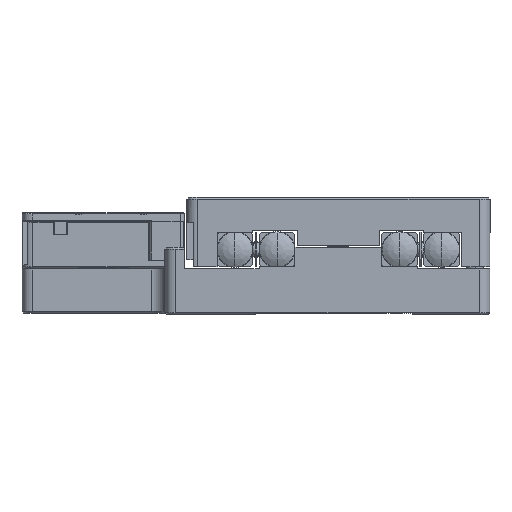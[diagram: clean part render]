
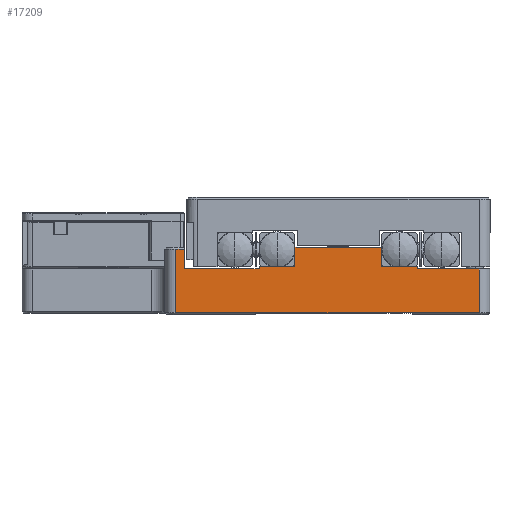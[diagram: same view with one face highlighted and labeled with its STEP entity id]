
A CAD part, front view. The second image highlights one B-rep face of the part: STEP entity #17209.
In plain terms, the highlighted planar face has unit normal (0, -1, 0).
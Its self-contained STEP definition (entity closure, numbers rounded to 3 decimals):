
#687 = VERTEX_POINT ( 'NONE', #86717 ) ;
#1481 = EDGE_CURVE ( 'NONE', #48915, #84310, #48616, .T. ) ;
#3851 = CARTESIAN_POINT ( 'NONE',  ( -56.962, -78.052, 2.875 ) ) ;
#6795 = ORIENTED_EDGE ( 'NONE', *, *, #37732, .F. ) ;
#7201 = PLANE ( 'NONE',  #43176 ) ;
#8392 = LINE ( 'NONE', #31563, #15343 ) ;
#10460 = CARTESIAN_POINT ( 'NONE',  ( -4.112, -78.052, 2.875 ) ) ;
#10703 = EDGE_LOOP ( 'NONE', ( #14898, #55738, #64140, #15133, #92390, #70075, #37689, #6795, #11506, #41111, #70685, #53294, #33848, #87874 ) ) ;
#11266 = DIRECTION ( 'NONE',  ( 0., 0., -1. ) ) ;
#11434 = VECTOR ( 'NONE', #67220, 1000. ) ;
#11469 = VERTEX_POINT ( 'NONE', #31908 ) ;
#11506 = ORIENTED_EDGE ( 'NONE', *, *, #34778, .F. ) ;
#12008 = DIRECTION ( 'NONE',  ( 0., 0., -1. ) ) ;
#14898 = ORIENTED_EDGE ( 'NONE', *, *, #68946, .T. ) ;
#15133 = ORIENTED_EDGE ( 'NONE', *, *, #61232, .T. ) ;
#15343 = VECTOR ( 'NONE', #52774, 1000. ) ;
#15603 = VERTEX_POINT ( 'NONE', #66346 ) ;
#17209 = ADVANCED_FACE ( 'NONE', ( #30399 ), #7201, .F. ) ;
#17554 = VERTEX_POINT ( 'NONE', #58041 ) ;
#17790 = EDGE_CURVE ( 'NONE', #15603, #53897, #93295, .T. ) ;
#21354 = LINE ( 'NONE', #90946, #11434 ) ;
#21366 = DIRECTION ( 'NONE',  ( 0., 0., 1. ) ) ;
#21423 = VECTOR ( 'NONE', #29831, 1000. ) ;
#21985 = CARTESIAN_POINT ( 'NONE',  ( 13.088, -78.052, 3.375 ) ) ;
#22544 = VECTOR ( 'NONE', #75260, 1000. ) ;
#29096 = VECTOR ( 'NONE', #12008, 1000. ) ;
#29419 = CARTESIAN_POINT ( 'NONE',  ( -56.962, -78.052, 2.875 ) ) ;
#29422 = VECTOR ( 'NONE', #63784, 1000. ) ;
#29831 = DIRECTION ( 'NONE',  ( 0., 0., 1. ) ) ;
#30399 = FACE_OUTER_BOUND ( 'NONE', #10703, .T. ) ;
#30401 = DIRECTION ( 'NONE',  ( 1., 0., 0. ) ) ;
#31364 = EDGE_CURVE ( 'NONE', #11469, #82373, #38351, .T. ) ;
#31563 = CARTESIAN_POINT ( 'NONE',  ( 63.888, -78.052, 2.875 ) ) ;
#31908 = CARTESIAN_POINT ( 'NONE',  ( 13.088, -78.052, 3.375 ) ) ;
#32938 = LINE ( 'NONE', #49071, #67549 ) ;
#33848 = ORIENTED_EDGE ( 'NONE', *, *, #81398, .T. ) ;
#34778 = EDGE_CURVE ( 'NONE', #53897, #687, #32938, .T. ) ;
#36117 = EDGE_CURVE ( 'NONE', #17554, #65372, #21354, .T. ) ;
#37399 = VERTEX_POINT ( 'NONE', #10460 ) ;
#37689 = ORIENTED_EDGE ( 'NONE', *, *, #1481, .F. ) ;
#37732 = EDGE_CURVE ( 'NONE', #687, #48915, #63277, .T. ) ;
#38351 = LINE ( 'NONE', #68593, #56855 ) ;
#38702 = CARTESIAN_POINT ( 'NONE',  ( 49.688, -78.052, 3.375 ) ) ;
#39314 = DIRECTION ( 'NONE',  ( 1., 0., 0. ) ) ;
#41111 = ORIENTED_EDGE ( 'NONE', *, *, #17790, .F. ) ;
#42580 = CARTESIAN_POINT ( 'NONE',  ( 63.888, -78.052, 2.875 ) ) ;
#43176 = AXIS2_PLACEMENT_3D ( 'NONE', #29419, #75808, #21366 ) ;
#43329 = EDGE_CURVE ( 'NONE', #15603, #82373, #81339, .T. ) ;
#44233 = EDGE_CURVE ( 'NONE', #65372, #74998, #91531, .T. ) ;
#44533 = CARTESIAN_POINT ( 'NONE',  ( -56.962, -78.052, 2.875 ) ) ;
#45011 = DIRECTION ( 'NONE',  ( 1., 0., 0. ) ) ;
#47839 = EDGE_CURVE ( 'NONE', #37399, #84329, #60144, .T. ) ;
#48616 = LINE ( 'NONE', #86977, #73329 ) ;
#48915 = VERTEX_POINT ( 'NONE', #38702 ) ;
#49071 = CARTESIAN_POINT ( 'NONE',  ( 41.388, -78.052, 7.875 ) ) ;
#52774 = DIRECTION ( 'NONE',  ( 0., 0., 1. ) ) ;
#53005 = LINE ( 'NONE', #67631, #21423 ) ;
#53294 = ORIENTED_EDGE ( 'NONE', *, *, #31364, .F. ) ;
#53607 = LINE ( 'NONE', #74865, #73725 ) ;
#53897 = VERTEX_POINT ( 'NONE', #63869 ) ;
#54675 = DIRECTION ( 'NONE',  ( 0., 0., -1. ) ) ;
#54725 = CARTESIAN_POINT ( 'NONE',  ( 63.888, -78.052, -7.175 ) ) ;
#54936 = CARTESIAN_POINT ( 'NONE',  ( 21.388, -78.052, 3.375 ) ) ;
#55738 = ORIENTED_EDGE ( 'NONE', *, *, #36117, .T. ) ;
#56855 = VECTOR ( 'NONE', #85261, 1000. ) ;
#57872 = CARTESIAN_POINT ( 'NONE',  ( -6.112, -78.052, -7.625 ) ) ;
#58041 = CARTESIAN_POINT ( 'NONE',  ( -4.112, -78.052, 7.425 ) ) ;
#59586 = CARTESIAN_POINT ( 'NONE',  ( 21.388, -78.052, 7.875 ) ) ;
#60144 = LINE ( 'NONE', #3851, #69654 ) ;
#60563 = CARTESIAN_POINT ( 'NONE',  ( 49.688, -78.052, 2.875 ) ) ;
#61232 = EDGE_CURVE ( 'NONE', #74998, #98786, #53607, .T. ) ;
#62930 = VECTOR ( 'NONE', #30401, 1000. ) ;
#63277 = LINE ( 'NONE', #71854, #29422 ) ;
#63784 = DIRECTION ( 'NONE',  ( 1., 0., 0. ) ) ;
#63869 = CARTESIAN_POINT ( 'NONE',  ( 41.388, -78.052, 7.875 ) ) ;
#64140 = ORIENTED_EDGE ( 'NONE', *, *, #44233, .T. ) ;
#65372 = VERTEX_POINT ( 'NONE', #77804 ) ;
#66346 = CARTESIAN_POINT ( 'NONE',  ( 21.388, -78.052, 7.875 ) ) ;
#66779 = DIRECTION ( 'NONE',  ( 1., 0., 0. ) ) ;
#67220 = DIRECTION ( 'NONE',  ( -1., 0., 0. ) ) ;
#67549 = VECTOR ( 'NONE', #11266, 1000. ) ;
#67631 = CARTESIAN_POINT ( 'NONE',  ( -4.112, -78.052, -34.628 ) ) ;
#68593 = CARTESIAN_POINT ( 'NONE',  ( 21.388, -78.052, 3.375 ) ) ;
#68827 = LINE ( 'NONE', #21985, #74157 ) ;
#68946 = EDGE_CURVE ( 'NONE', #37399, #17554, #53005, .T. ) ;
#69654 = VECTOR ( 'NONE', #45011, 1000. ) ;
#69965 = EDGE_CURVE ( 'NONE', #98786, #96039, #8392, .T. ) ;
#70075 = ORIENTED_EDGE ( 'NONE', *, *, #81828, .F. ) ;
#70685 = ORIENTED_EDGE ( 'NONE', *, *, #43329, .T. ) ;
#71073 = CARTESIAN_POINT ( 'NONE',  ( 21.388, -78.052, 7.875 ) ) ;
#71595 = CARTESIAN_POINT ( 'NONE',  ( -6.112, -78.052, -7.175 ) ) ;
#71854 = CARTESIAN_POINT ( 'NONE',  ( 41.388, -78.052, 3.375 ) ) ;
#73329 = VECTOR ( 'NONE', #54675, 1000. ) ;
#73725 = VECTOR ( 'NONE', #66779, 1000. ) ;
#74157 = VECTOR ( 'NONE', #83520, 1000. ) ;
#74865 = CARTESIAN_POINT ( 'NONE',  ( 12.388, -78.052, -7.175 ) ) ;
#74998 = VERTEX_POINT ( 'NONE', #71595 ) ;
#75260 = DIRECTION ( 'NONE',  ( 0., 0., -1. ) ) ;
#75808 = DIRECTION ( 'NONE',  ( 0., 1., 0. ) ) ;
#77192 = CARTESIAN_POINT ( 'NONE',  ( 13.088, -78.052, 2.875 ) ) ;
#77804 = CARTESIAN_POINT ( 'NONE',  ( -6.112, -78.052, 7.425 ) ) ;
#81339 = LINE ( 'NONE', #59586, #22544 ) ;
#81398 = EDGE_CURVE ( 'NONE', #11469, #84329, #68827, .T. ) ;
#81828 = EDGE_CURVE ( 'NONE', #84310, #96039, #99525, .T. ) ;
#82373 = VERTEX_POINT ( 'NONE', #54936 ) ;
#83370 = VECTOR ( 'NONE', #39314, 1000. ) ;
#83520 = DIRECTION ( 'NONE',  ( 0., 0., -1. ) ) ;
#84310 = VERTEX_POINT ( 'NONE', #60563 ) ;
#84329 = VERTEX_POINT ( 'NONE', #77192 ) ;
#85261 = DIRECTION ( 'NONE',  ( 1., 0., 0. ) ) ;
#86717 = CARTESIAN_POINT ( 'NONE',  ( 41.388, -78.052, 3.375 ) ) ;
#86977 = CARTESIAN_POINT ( 'NONE',  ( 49.688, -78.052, 3.375 ) ) ;
#87874 = ORIENTED_EDGE ( 'NONE', *, *, #47839, .F. ) ;
#90946 = CARTESIAN_POINT ( 'NONE',  ( -56.962, -78.052, 7.425 ) ) ;
#91531 = LINE ( 'NONE', #57872, #29096 ) ;
#92390 = ORIENTED_EDGE ( 'NONE', *, *, #69965, .T. ) ;
#93295 = LINE ( 'NONE', #71073, #83370 ) ;
#96039 = VERTEX_POINT ( 'NONE', #42580 ) ;
#98786 = VERTEX_POINT ( 'NONE', #54725 ) ;
#99525 = LINE ( 'NONE', #44533, #62930 ) ;
